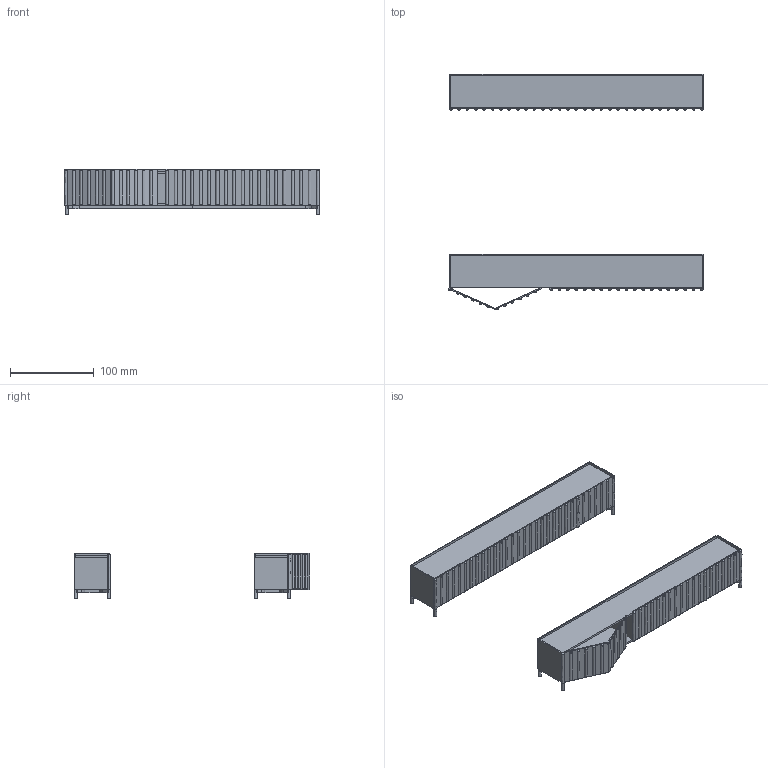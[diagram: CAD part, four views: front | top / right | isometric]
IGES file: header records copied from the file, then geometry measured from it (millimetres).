
Global section: file name: /Users/giona/Google Drive/E-GGS/DESIGN/Credenze/container/MATH/3d/container303.igs; preprocessor: Trout Lake IGES 012 Jun 21 2016; date: 211008.105334; units: millimetre
Bounding box: 304.21 x 281.45 x 54.5 mm (x, y, z)
Surface area: 260130.2 mm2 (no closed solid volume)
Topology: 0 solids, 0 shells, 548 faces, 4650 edges, 4634 vertices
Faces by surface type: bspline 548
